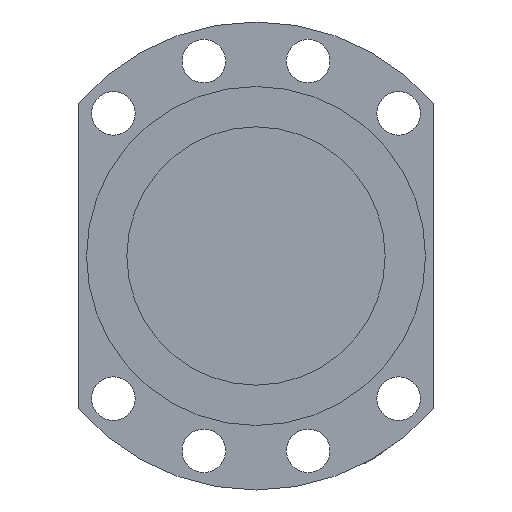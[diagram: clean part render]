
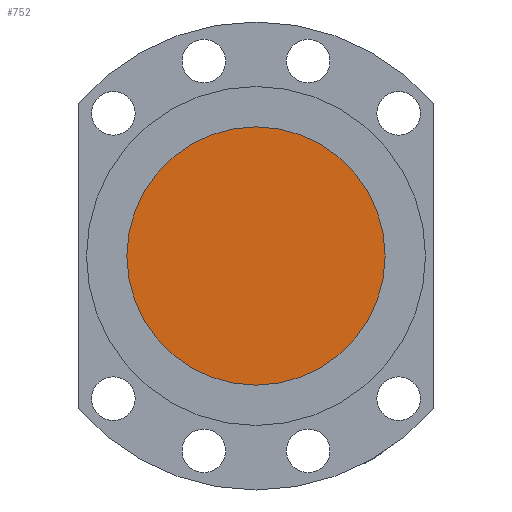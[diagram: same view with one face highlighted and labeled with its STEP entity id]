
A CAD part, front view. The second image highlights one B-rep face of the part: STEP entity #752.
In plain terms, the highlighted planar face has unit normal (0, -1, 0).
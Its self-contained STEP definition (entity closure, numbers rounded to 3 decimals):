
#34 = EDGE_CURVE ( 'NONE', #645, #645, #524, .T. ) ;
#126 = PLANE ( 'NONE',  #176 ) ;
#176 = AXIS2_PLACEMENT_3D ( 'NONE', #698, #264, #767 ) ;
#194 = EDGE_LOOP ( 'NONE', ( #790 ) ) ;
#198 = CARTESIAN_POINT ( 'NONE',  ( 40., -150., 0. ) ) ;
#264 = DIRECTION ( 'NONE',  ( 0., 1., 0. ) ) ;
#524 = CIRCLE ( 'NONE', #677, 40. ) ;
#645 = VERTEX_POINT ( 'NONE', #198 ) ;
#676 = FACE_OUTER_BOUND ( 'NONE', #194, .T. ) ;
#677 = AXIS2_PLACEMENT_3D ( 'NONE', #1103, #1091, #753 ) ;
#698 = CARTESIAN_POINT ( 'NONE',  ( 0., -150., 0. ) ) ;
#752 = ADVANCED_FACE ( 'NONE', ( #676 ), #126, .F. ) ;
#753 = DIRECTION ( 'NONE',  ( 1., 0., 0. ) ) ;
#767 = DIRECTION ( 'NONE',  ( 1., 0., 0. ) ) ;
#790 = ORIENTED_EDGE ( 'NONE', *, *, #34, .F. ) ;
#1091 = DIRECTION ( 'NONE',  ( 0., 1., 0. ) ) ;
#1103 = CARTESIAN_POINT ( 'NONE',  ( 0., -150., 0. ) ) ;
